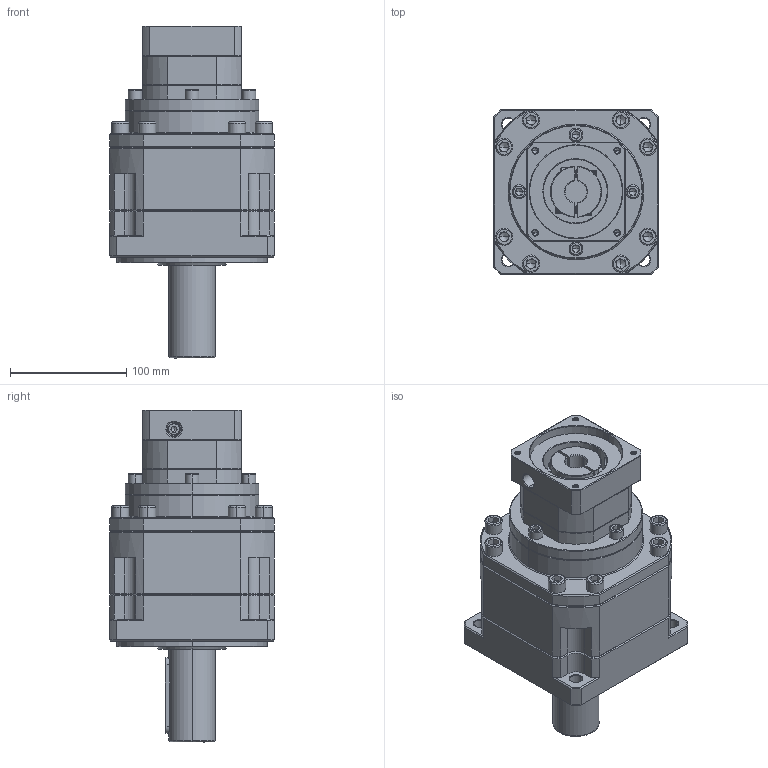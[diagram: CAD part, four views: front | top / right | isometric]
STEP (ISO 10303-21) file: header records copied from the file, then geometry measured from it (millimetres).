
FILE_DESCRIPTION (( 'STEP AP214' ), '1' );
FILE_NAME ('ZB142A-D40-L3-P2-19-80-100-M6.step', '2023-09-02T06:21:53', ( '' ), ( '' ), 'SwSTEP 2.0', 'SolidWorks 2016', '' );
FILE_SCHEMA (( 'AUTOMOTIVE_DESIGN' ));
Length unit declared in the file: millimetre
Products named in the file (1): ZB142A-D40-L3-P2-19-80-100-M6
Bounding box: 142 x 142 x 286.2 mm (x, y, z)
Volume: 2763568.8 mm3; surface area: 200564.9 mm2
Topology: 5 solids, 6 shells, 2542 faces, 6622 edges, 4201 vertices
Faces by surface type: plane 1236, cylinder 473, bspline 443, cone 375, torus 15
Entity records: 135827 total; most frequent: CARTESIAN_POINT 49268, ORIENTED_EDGE 13136, DIRECTION 10548, EDGE_CURVE 6568, LINE 4218, VECTOR 4218, VERTEX_POINT 4201, AXIS2_PLACEMENT_3D 3165
